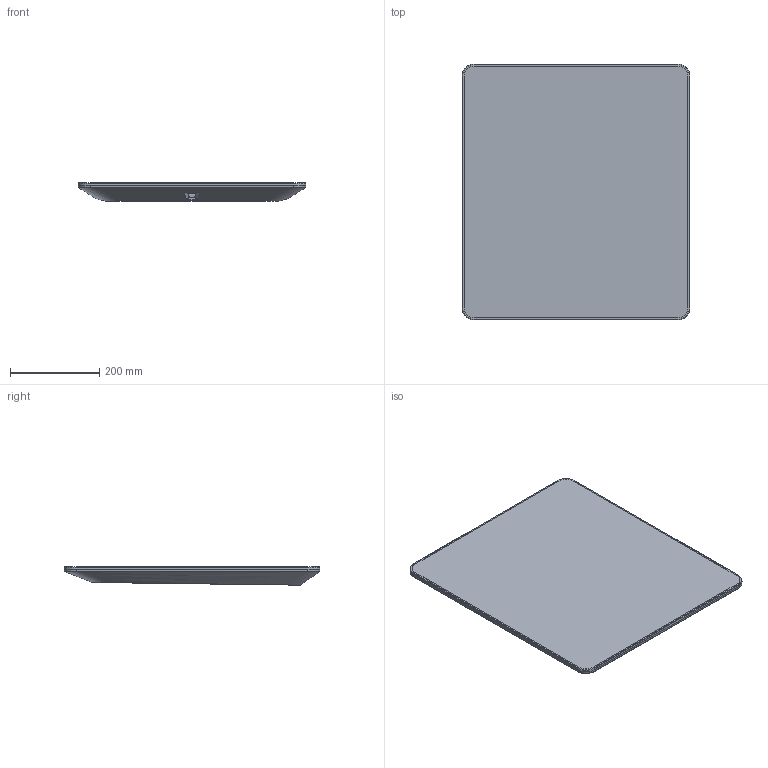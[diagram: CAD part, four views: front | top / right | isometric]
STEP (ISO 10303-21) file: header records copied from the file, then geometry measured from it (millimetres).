
FILE_DESCRIPTION(/* description */ (''),/* implementation_level */ '2;1');
FILE_NAME(/* name */ '445387_01_HP_NonActuated.stp',/* time_stamp */ '2022-08-12T17:54:52-07:00',/* author */ (''),/* organization */ (''),/* preprocessor_version */ 'ST-DEVELOPER v18.102',/* originating_system */ 'SIEMENS PLM Software NX 2023',/* authorisation */ '');
FILE_SCHEMA (('AUTOMOTIVE_DESIGN { 1 0 10303 214 3 1 1 1 }'));
Products named in the file (1): 01_objects
Bounding box: 511.3 x 574.8 x 41.09 mm (x, y, z)
Volume: 9639972.4 mm3; surface area: 1777586.4 mm2
Topology: 7 solids, 7 shells, 1764 faces, 5018 edges, 3295 vertices
Faces by surface type: bspline 786, cone 536, cylinder 304, plane 79, torus 56, extrusion 3
Entity records: 88218 total; most frequent: CARTESIAN_POINT 49752, ORIENTED_EDGE 10024, DIRECTION 5220, EDGE_CURVE 5012, VERTEX_POINT 3294, B_SPLINE_CURVE_WITH_KNOTS 3291, AXIS2_PLACEMENT_3D 2514, EDGE_LOOP 1804
